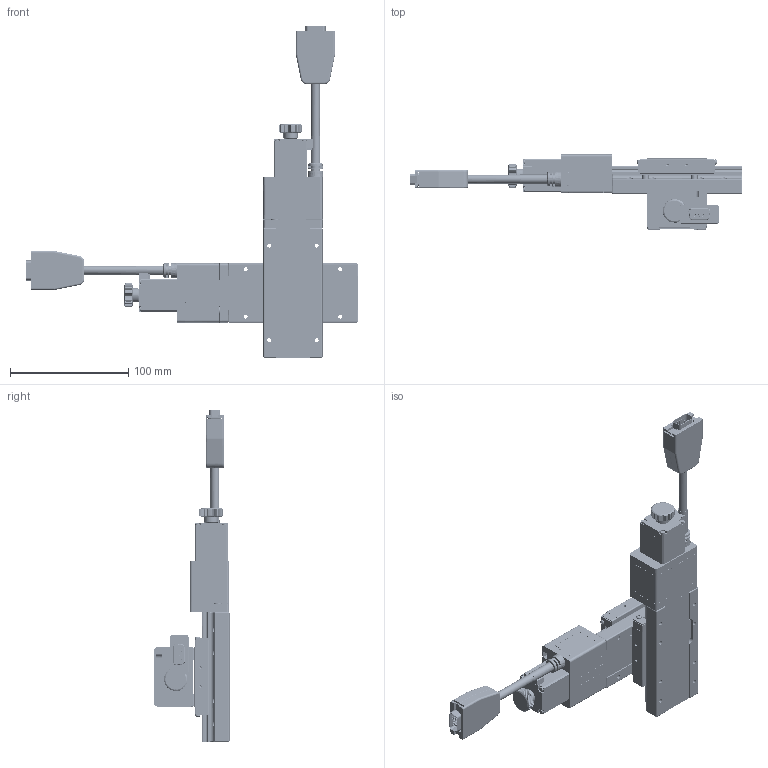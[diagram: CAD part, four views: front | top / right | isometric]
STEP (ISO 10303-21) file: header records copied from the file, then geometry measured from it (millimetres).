
FILE_DESCRIPTION (( 'STEP AP203' ), '1' );
FILE_NAME ('CYN5030-S2?N.STEP', '2023-10-02T00:23:41', ( '' ), ( '' ), 'SwSTEP 2.0', 'SolidWorks 2019', '' );
FILE_SCHEMA (( 'CONFIG_CONTROL_DESIGN' ));
Products named in the file (5): CYN5030-S2?N; CXN5030-S2?N.STEP; Group2^CXN5030-S2_N_GMT.STEP_GMT; Group1^CXN5030-S2_N_GMT.STEP_GMT
Assembly tree (6 placements, depth 3):
  CYN5030-S2?N
    CXN5030-S2?N.STEP
      Group1^CXN5030-S2_N_GMT.STEP_GMT
      Group2^CXN5030-S2_N_GMT.STEP_GMT
    CXN5030-S2?N.STEP
      Group1^CXN5030-S2_N_GMT.STEP_GMT
      Group2^CXN5030-S2_N_GMT.STEP_GMT
Bounding box: 280.6 x 63.5 x 280.6 mm (x, y, z)
Surface area: 161122.2 mm2 (no closed solid volume)
Topology: 0 solids, 64 shells, 7084 faces, 18784 edges, 11656 vertices
Faces by surface type: plane 3336, cylinder 2030, torus 718, bspline 610, cone 218, sphere 172
Entity records: 135723 total; most frequent: CARTESIAN_POINT 63438, ORIENTED_EDGE 18113, DIRECTION 9667, EDGE_CURVE 9212, B_SPLINE_CURVE_WITH_KNOTS 6986, VERTEX_POINT 5823, AXIS2_PLACEMENT_3D 4317, EDGE_LOOP 3778
